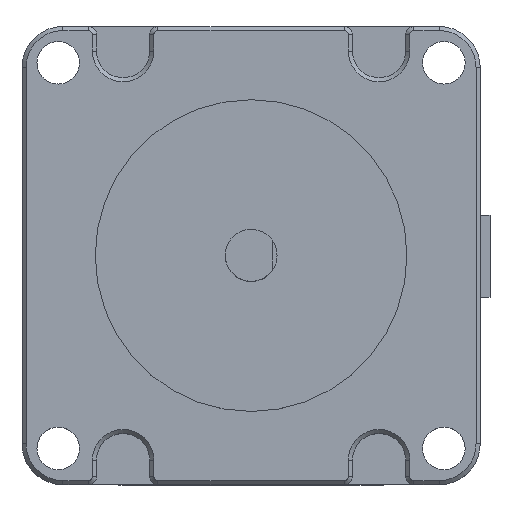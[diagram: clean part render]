
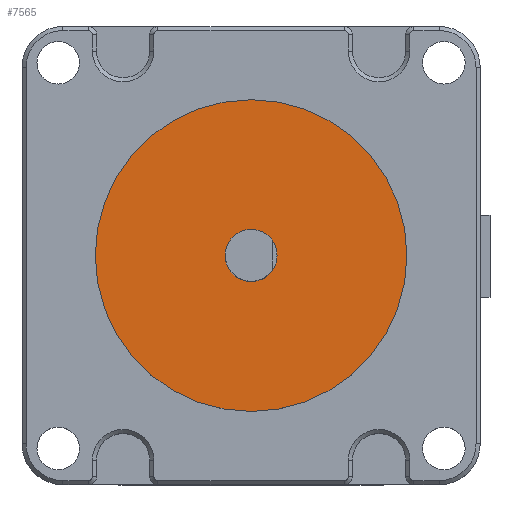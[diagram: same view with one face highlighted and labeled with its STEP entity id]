
A CAD part, top view. The second image highlights one B-rep face of the part: STEP entity #7565.
In plain terms, the highlighted planar face has unit normal (0, 0, 1).
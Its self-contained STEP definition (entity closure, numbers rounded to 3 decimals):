
#1464=CARTESIAN_POINT('',(28.,28.,56.6));
#1465=DIRECTION('',(0.,0.,1.));
#1466=DIRECTION('',(1.,0.,0.));
#1467=AXIS2_PLACEMENT_3D('',#1464,#1465,#1466);
#1469=CARTESIAN_POINT('',(28.,28.,56.6));
#1470=DIRECTION('',(0.,0.,1.));
#1471=DIRECTION('',(-1.,0.,0.));
#1472=AXIS2_PLACEMENT_3D('',#1469,#1470,#1471);
#1483=CARTESIAN_POINT('',(28.,28.,56.6));
#1484=DIRECTION('',(0.,0.,1.));
#1485=DIRECTION('',(1.,0.,0.));
#1486=AXIS2_PLACEMENT_3D('',#1483,#1484,#1485);
#1501=CARTESIAN_POINT('',(28.,28.,56.6));
#1502=DIRECTION('',(0.,0.,1.));
#1503=DIRECTION('',(-1.,0.,0.));
#1504=AXIS2_PLACEMENT_3D('',#1501,#1502,#1503);
#5653=CARTESIAN_POINT('',(47.05,28.,56.6));
#5654=CARTESIAN_POINT('',(8.95,28.,56.6));
#5655=VERTEX_POINT('',#5653);
#5656=VERTEX_POINT('',#5654);
#5661=CARTESIAN_POINT('',(31.175,28.,56.6));
#5662=CARTESIAN_POINT('',(24.825,28.,56.6));
#5663=VERTEX_POINT('',#5661);
#5664=VERTEX_POINT('',#5662);
#7550=CARTESIAN_POINT('',(0.,0.,56.6));
#7551=DIRECTION('',(0.,0.,1.));
#7552=DIRECTION('',(1.,0.,0.));
#7553=AXIS2_PLACEMENT_3D('',#7550,#7551,#7552);
#7554=PLANE('',#7553);
#7555=ORIENTED_EDGE('',*,*,#7530,.F.);
#7556=ORIENTED_EDGE('',*,*,#7544,.F.);
#7557=EDGE_LOOP('',(#7555,#7556));
#7558=FACE_OUTER_BOUND('',#7557,.F.);
#7560=ORIENTED_EDGE('',*,*,#7559,.T.);
#7562=ORIENTED_EDGE('',*,*,#7561,.T.);
#7563=EDGE_LOOP('',(#7560,#7562));
#7564=FACE_BOUND('',#7563,.F.);
#7565=ADVANCED_FACE('',(#7558,#7564),#7554,.T.);
#1468=CIRCLE('',#1467,19.05);
#1473=CIRCLE('',#1472,19.05);
#1487=CIRCLE('',#1486,3.175);
#1505=CIRCLE('',#1504,3.175);
#7530=EDGE_CURVE('',#5655,#5656,#1468,.T.);
#7544=EDGE_CURVE('',#5656,#5655,#1473,.T.);
#7559=EDGE_CURVE('',#5663,#5664,#1487,.T.);
#7561=EDGE_CURVE('',#5664,#5663,#1505,.T.);
